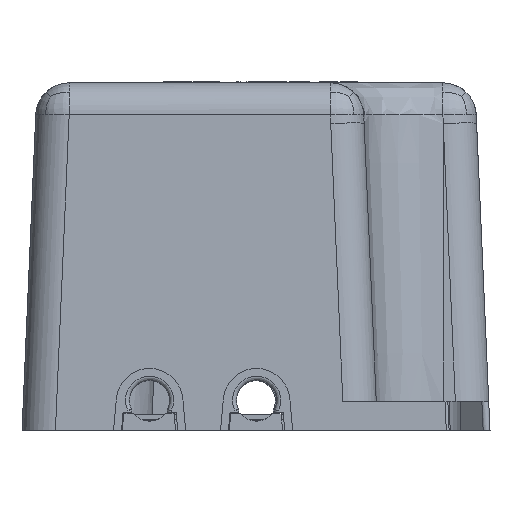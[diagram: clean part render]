
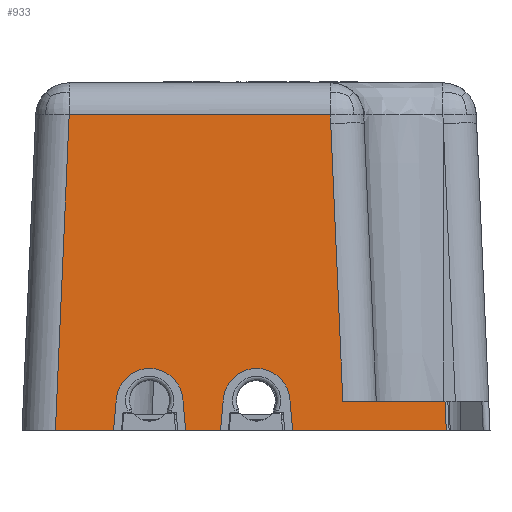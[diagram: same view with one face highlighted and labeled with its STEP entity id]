
A CAD part, front view. The second image highlights one B-rep face of the part: STEP entity #933.
In plain terms, the highlighted planar face has unit normal (0, -0.999, 0.044).
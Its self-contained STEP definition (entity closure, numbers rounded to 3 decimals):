
#390=B_SPLINE_CURVE_WITH_KNOTS('',3,(#16500,#16501,#16502,#16503),.UNSPECIFIED.,
.F.,.F.,(4,4),(0.,1.),.UNSPECIFIED.);
#933=ADVANCED_FACE('',(#1958),#1559,.T.);
#1559=PLANE('',#11945);
#1958=FACE_OUTER_BOUND('',#2595,.T.);
#2595=EDGE_LOOP('',(#3679,#3680,#3681,#3682,#3683,#3684,#3685,#3686,#3687,
#3688,#3689,#3690,#3691,#3692,#3693));
#3233=ELLIPSE('',#11943,2.501,2.499);
#3234=ELLIPSE('',#11944,2.501,2.499);
#3679=ORIENTED_EDGE('',*,*,#8207,.T.);
#3680=ORIENTED_EDGE('',*,*,#8208,.T.);
#3681=ORIENTED_EDGE('',*,*,#8209,.T.);
#3682=ORIENTED_EDGE('',*,*,#8210,.F.);
#3683=ORIENTED_EDGE('',*,*,#8211,.T.);
#3684=ORIENTED_EDGE('',*,*,#8212,.F.);
#3685=ORIENTED_EDGE('',*,*,#8213,.T.);
#3686=ORIENTED_EDGE('',*,*,#8214,.F.);
#3687=ORIENTED_EDGE('',*,*,#8215,.F.);
#3688=ORIENTED_EDGE('',*,*,#8216,.T.);
#3689=ORIENTED_EDGE('',*,*,#8217,.T.);
#3690=ORIENTED_EDGE('',*,*,#8218,.T.);
#3691=ORIENTED_EDGE('',*,*,#8219,.T.);
#3692=ORIENTED_EDGE('',*,*,#8220,.T.);
#3693=ORIENTED_EDGE('',*,*,#8221,.T.);
#7061=VERTEX_POINT('',#16488);
#7062=VERTEX_POINT('',#16489);
#7063=VERTEX_POINT('',#16491);
#7064=VERTEX_POINT('',#16493);
#7065=VERTEX_POINT('',#16495);
#7066=VERTEX_POINT('',#16497);
#7067=VERTEX_POINT('',#16499);
#7068=VERTEX_POINT('',#16504);
#7069=VERTEX_POINT('',#16506);
#7070=VERTEX_POINT('',#16508);
#7071=VERTEX_POINT('',#16510);
#7072=VERTEX_POINT('',#16512);
#7073=VERTEX_POINT('',#16514);
#7074=VERTEX_POINT('',#16516);
#7075=VERTEX_POINT('',#16518);
#8207=EDGE_CURVE('',#7061,#7062,#3233,.T.);
#8208=EDGE_CURVE('',#7062,#7063,#9805,.T.);
#8209=EDGE_CURVE('',#7063,#7064,#9806,.T.);
#8210=EDGE_CURVE('',#7065,#7064,#9807,.T.);
#8211=EDGE_CURVE('',#7065,#7066,#9808,.T.);
#8212=EDGE_CURVE('',#7067,#7066,#9809,.T.);
#8213=EDGE_CURVE('',#7067,#7068,#390,.T.);
#8214=EDGE_CURVE('',#7069,#7068,#9810,.T.);
#8215=EDGE_CURVE('',#7070,#7069,#9811,.T.);
#8216=EDGE_CURVE('',#7070,#7071,#9812,.T.);
#8217=EDGE_CURVE('',#7071,#7072,#9813,.T.);
#8218=EDGE_CURVE('',#7072,#7073,#3234,.T.);
#8219=EDGE_CURVE('',#7073,#7074,#9814,.T.);
#8220=EDGE_CURVE('',#7074,#7075,#9815,.T.);
#8221=EDGE_CURVE('',#7075,#7061,#9816,.T.);
#9805=LINE('',#16490,#10908);
#9806=LINE('',#16492,#10909);
#9807=LINE('',#16494,#10910);
#9808=LINE('',#16496,#10911);
#9809=LINE('',#16498,#10912);
#9810=LINE('',#16505,#10913);
#9811=LINE('',#16507,#10914);
#9812=LINE('',#16509,#10915);
#9813=LINE('',#16511,#10916);
#9814=LINE('',#16515,#10917);
#9815=LINE('',#16517,#10918);
#9816=LINE('',#16519,#10919);
#10908=VECTOR('',#13207,1.);
#10909=VECTOR('',#13208,1.);
#10910=VECTOR('',#13209,1.);
#10911=VECTOR('',#13210,1.);
#10912=VECTOR('',#13211,1.);
#10913=VECTOR('',#13212,1.);
#10914=VECTOR('',#13213,1.);
#10915=VECTOR('',#13214,1.);
#10916=VECTOR('',#13215,1.);
#10917=VECTOR('',#13218,1.);
#10918=VECTOR('',#13219,1.);
#10919=VECTOR('',#13220,1.);
#11943=AXIS2_PLACEMENT_3D('',#16487,#13205,#13206);
#11944=AXIS2_PLACEMENT_3D('',#16513,#13216,#13217);
#11945=AXIS2_PLACEMENT_3D('',#16520,#13221,#13222);
#13205=DIRECTION('',(0.,0.999,-0.044));
#13206=DIRECTION('',(0.,0.044,0.999));
#13207=DIRECTION('',(0.087,-0.043,-0.995));
#13208=DIRECTION('',(1.,0.,0.));
#13209=DIRECTION('',(0.044,-0.044,-0.998));
#13210=DIRECTION('',(-1.,0.,0.));
#13211=DIRECTION('',(0.044,-0.044,-0.998));
#13212=DIRECTION('',(1.,0.,0.));
#13213=DIRECTION('',(0.044,0.044,0.998));
#13214=DIRECTION('',(1.,0.,0.));
#13215=DIRECTION('',(0.087,0.043,0.995));
#13216=DIRECTION('',(0.,0.999,-0.044));
#13217=DIRECTION('',(0.,0.044,0.999));
#13218=DIRECTION('',(0.087,-0.043,-0.995));
#13219=DIRECTION('',(1.,0.,0.));
#13220=DIRECTION('',(0.087,0.043,0.995));
#13221=DIRECTION('',(0.,-0.999,0.044));
#13222=DIRECTION('',(0.,-0.044,-0.999));
#16487=CARTESIAN_POINT('',(-33.787,-58.905,2.139));
#16488=CARTESIAN_POINT('',(-36.277,-58.896,2.358));
#16489=CARTESIAN_POINT('',(-31.297,-58.896,2.357));
#16490=CARTESIAN_POINT('',(-31.296,-58.896,2.358));
#16491=CARTESIAN_POINT('',(-31.09,-58.999,0.));
#16492=CARTESIAN_POINT('',(-31.692,-58.999,0.));
#16493=CARTESIAN_POINT('',(-19.6,-58.999,0.));
#16494=CARTESIAN_POINT('',(-19.696,-58.902,2.2));
#16495=CARTESIAN_POINT('',(-19.696,-58.902,2.2));
#16496=CARTESIAN_POINT('',(-19.696,-58.902,2.2));
#16497=CARTESIAN_POINT('',(-27.337,-58.902,2.2));
#16498=CARTESIAN_POINT('',(-27.789,-58.45,12.556));
#16499=CARTESIAN_POINT('',(-28.243,-57.996,22.958));
#16500=CARTESIAN_POINT('',(-28.243,-57.996,22.958));
#16501=CARTESIAN_POINT('',(-28.253,-57.987,23.175));
#16502=CARTESIAN_POINT('',(-28.262,-57.977,23.392));
#16503=CARTESIAN_POINT('',(-28.272,-57.968,23.608));
#16504=CARTESIAN_POINT('',(-28.272,-57.968,23.608));
#16505=CARTESIAN_POINT('',(-47.801,-57.968,23.608));
#16506=CARTESIAN_POINT('',(-47.801,-57.968,23.608));
#16507=CARTESIAN_POINT('',(-48.832,-58.999,0.));
#16508=CARTESIAN_POINT('',(-48.832,-58.999,0.));
#16509=CARTESIAN_POINT('',(-48.832,-58.999,0.));
#16510=CARTESIAN_POINT('',(-44.483,-58.999,0.));
#16511=CARTESIAN_POINT('',(-44.478,-58.996,0.052));
#16512=CARTESIAN_POINT('',(-44.276,-58.896,2.358));
#16513=CARTESIAN_POINT('',(-41.787,-58.905,2.139));
#16514=CARTESIAN_POINT('',(-39.297,-58.896,2.357));
#16515=CARTESIAN_POINT('',(-39.296,-58.896,2.358));
#16516=CARTESIAN_POINT('',(-39.089,-58.999,0.));
#16517=CARTESIAN_POINT('',(-39.692,-58.999,0.));
#16518=CARTESIAN_POINT('',(-36.483,-58.999,0.));
#16519=CARTESIAN_POINT('',(-36.478,-58.996,0.052));
#16520=CARTESIAN_POINT('',(-48.991,-57.961,23.767));
